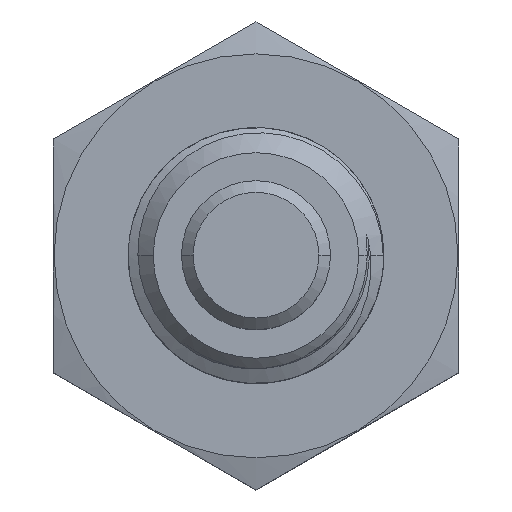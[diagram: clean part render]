
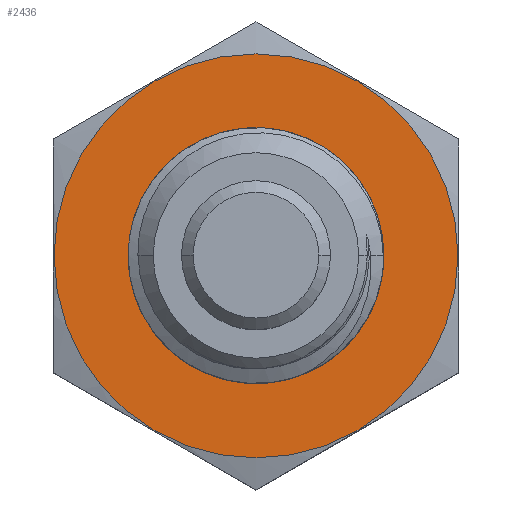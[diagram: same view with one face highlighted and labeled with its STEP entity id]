
A CAD part, top view. The second image highlights one B-rep face of the part: STEP entity #2436.
In plain terms, the highlighted planar face has unit normal (0, 0, 1).
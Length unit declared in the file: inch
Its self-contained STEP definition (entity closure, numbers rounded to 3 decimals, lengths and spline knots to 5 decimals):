
#71 = CARTESIAN_POINT ( 'NONE',  ( 0., 0., 0.72 ) ) ;
#484 = VERTEX_POINT ( 'NONE', #20136 ) ;
#1052 = PLANE ( 'NONE',  #15976 ) ;
#1080 = VERTEX_POINT ( 'NONE', #21946 ) ;
#1170 = CARTESIAN_POINT ( 'NONE',  ( 0., 0., 0.72 ) ) ;
#1357 = ORIENTED_EDGE ( 'NONE', *, *, #12577, .T. ) ;
#1528 = DIRECTION ( 'NONE',  ( 1., 0., 0. ) ) ;
#2346 = DIRECTION ( 'NONE',  ( 0., 0., 1. ) ) ;
#2436 = ADVANCED_FACE ( 'NONE', ( #2502, #11524 ), #1052, .F. ) ;
#2502 = FACE_BOUND ( 'NONE', #3243, .T. ) ;
#2723 = CARTESIAN_POINT ( 'NONE',  ( 0., 0., 0.72 ) ) ;
#3243 = EDGE_LOOP ( 'NONE', ( #19439, #3323 ) ) ;
#3323 = ORIENTED_EDGE ( 'NONE', *, *, #8665, .F. ) ;
#3339 = CARTESIAN_POINT ( 'NONE',  ( 0.20425, 0., 0.72 ) ) ;
#4551 = CIRCLE ( 'NONE', #9107, 0.3455 ) ;
#6476 = CIRCLE ( 'NONE', #20489, 0.20425 ) ;
#7212 = DIRECTION ( 'NONE',  ( 0., 0., 1. ) ) ;
#7372 = VERTEX_POINT ( 'NONE', #3339 ) ;
#7956 = DIRECTION ( 'NONE',  ( 0., 0., -1. ) ) ;
#8266 = CARTESIAN_POINT ( 'NONE',  ( -0.20425, 0., 0.72 ) ) ;
#8416 = DIRECTION ( 'NONE',  ( 0., 0., 1. ) ) ;
#8665 = EDGE_CURVE ( 'NONE', #11012, #7372, #16433, .T. ) ;
#8986 = CARTESIAN_POINT ( 'NONE',  ( 0., 0., 0.72 ) ) ;
#9107 = AXIS2_PLACEMENT_3D ( 'NONE', #71, #2346, #14554 ) ;
#9738 = CARTESIAN_POINT ( 'NONE',  ( 0., 0.3455, 0.72 ) ) ;
#10716 = EDGE_LOOP ( 'NONE', ( #1357, #21451 ) ) ;
#11012 = VERTEX_POINT ( 'NONE', #8266 ) ;
#11524 = FACE_OUTER_BOUND ( 'NONE', #10716, .T. ) ;
#12207 = DIRECTION ( 'NONE',  ( 1., 0., 0. ) ) ;
#12577 = EDGE_CURVE ( 'NONE', #1080, #484, #18811, .T. ) ;
#14554 = DIRECTION ( 'NONE',  ( 1., 0., 0. ) ) ;
#15347 = EDGE_CURVE ( 'NONE', #484, #1080, #4551, .T. ) ;
#15976 = AXIS2_PLACEMENT_3D ( 'NONE', #9738, #7956, #18971 ) ;
#16433 = CIRCLE ( 'NONE', #19513, 0.20425 ) ;
#17151 = DIRECTION ( 'NONE',  ( 1., 0., 0. ) ) ;
#18811 = CIRCLE ( 'NONE', #20327, 0.3455 ) ;
#18971 = DIRECTION ( 'NONE',  ( -1., 0., 0. ) ) ;
#18977 = EDGE_CURVE ( 'NONE', #7372, #11012, #6476, .T. ) ;
#19439 = ORIENTED_EDGE ( 'NONE', *, *, #18977, .F. ) ;
#19513 = AXIS2_PLACEMENT_3D ( 'NONE', #2723, #22441, #17151 ) ;
#20136 = CARTESIAN_POINT ( 'NONE',  ( 0.3455, 0., 0.72 ) ) ;
#20327 = AXIS2_PLACEMENT_3D ( 'NONE', #8986, #7212, #1528 ) ;
#20489 = AXIS2_PLACEMENT_3D ( 'NONE', #1170, #8416, #12207 ) ;
#21451 = ORIENTED_EDGE ( 'NONE', *, *, #15347, .T. ) ;
#21946 = CARTESIAN_POINT ( 'NONE',  ( -0.3455, 0., 0.72 ) ) ;
#22441 = DIRECTION ( 'NONE',  ( 0., 0., 1. ) ) ;
